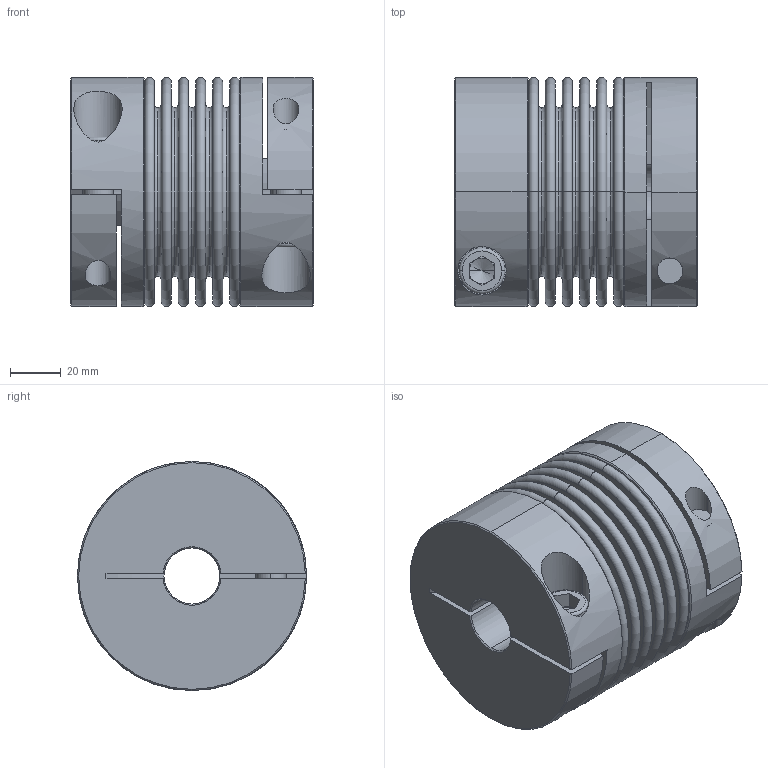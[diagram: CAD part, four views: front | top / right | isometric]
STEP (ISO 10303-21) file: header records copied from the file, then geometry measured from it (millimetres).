
FILE_DESCRIPTION (( 'STEP AP214' ), '1' );
FILE_NAME ('KB4C-200-94.STEP', '2011-01-19T17:49:55', ( '' ), ( 'KAPCAD' ), 'SwSTEP 2.0', 'SolidWorks 2002296', '' );
FILE_SCHEMA (( 'AUTOMOTIVE_DESIGN' ));
Length unit declared in the file: millimetre
Products named in the file (4): KB4C-200-94; KN200C_Standard; BL200_Standard; Socket Head Cap Screw_DIN_DIN 912 M12 x 35 --- 35N
Assembly tree (5 placements, depth 2):
  KB4C-200-94
    Socket Head Cap Screw_DIN_DIN 912 M12 x 35 --- 35N  x2
    BL200_Standard
    KN200C_Standard  x2
Bounding box: 95.45 x 90 x 90 mm (x, y, z)
Volume: 349488.7 mm3; surface area: 148976.1 mm2
Topology: 5 solids, 5 shells, 220 faces, 488 edges, 302 vertices
Faces by surface type: torus 78, plane 74, cylinder 44, cone 24
Entity records: 4810 total; most frequent: DIRECTION 938, CARTESIAN_POINT 930, ORIENTED_EDGE 692, AXIS2_PLACEMENT_3D 433, EDGE_CURVE 346, CIRCLE 263, VERTEX_POINT 216, EDGE_LOOP 196
